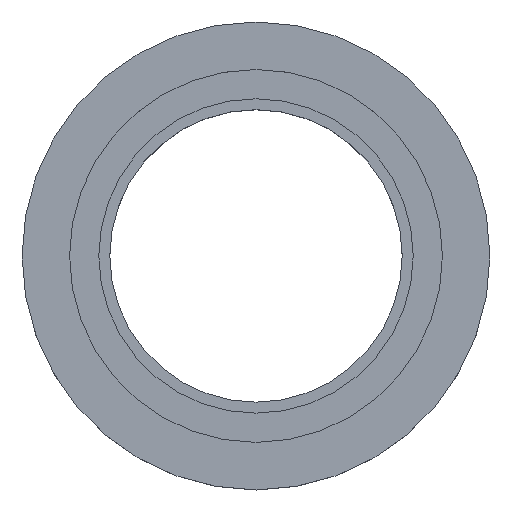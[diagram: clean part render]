
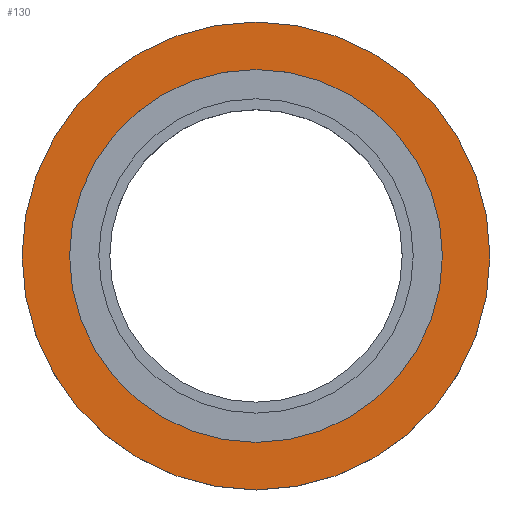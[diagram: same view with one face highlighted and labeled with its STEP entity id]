
A CAD part, top view. The second image highlights one B-rep face of the part: STEP entity #130.
In plain terms, the highlighted planar face has unit normal (0, 0, 1).
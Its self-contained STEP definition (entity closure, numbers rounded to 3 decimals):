
#28=FACE_BOUND('',#44,.T.);
#34=FACE_OUTER_BOUND('',#43,.T.);
#43=EDGE_LOOP('',(#104,#105));
#44=EDGE_LOOP('',(#106));
#54=CIRCLE('',#160,12.75);
#55=CIRCLE('',#162,16.);
#56=CIRCLE('',#163,16.);
#66=VERTEX_POINT('',#230);
#67=VERTEX_POINT('',#234);
#68=VERTEX_POINT('',#235);
#78=EDGE_CURVE('',#66,#66,#54,.T.);
#80=EDGE_CURVE('',#67,#68,#55,.T.);
#81=EDGE_CURVE('',#68,#67,#56,.T.);
#104=ORIENTED_EDGE('',*,*,#80,.T.);
#105=ORIENTED_EDGE('',*,*,#81,.T.);
#106=ORIENTED_EDGE('',*,*,#78,.T.);
#124=PLANE('',#166);
#130=ADVANCED_FACE('',(#34,#28),#124,.T.);
#160=AXIS2_PLACEMENT_3D('',#231,#187,#188);
#162=AXIS2_PLACEMENT_3D('',#236,#192,#193);
#163=AXIS2_PLACEMENT_3D('',#237,#194,#195);
#166=AXIS2_PLACEMENT_3D('',#243,#201,#202);
#187=DIRECTION('center_axis',(0.,0.,-1.));
#188=DIRECTION('ref_axis',(-1.,0.,0.));
#192=DIRECTION('center_axis',(0.,0.,1.));
#193=DIRECTION('ref_axis',(1.,0.,0.));
#194=DIRECTION('center_axis',(0.,0.,1.));
#195=DIRECTION('ref_axis',(1.,0.,0.));
#201=DIRECTION('center_axis',(0.,0.,1.));
#202=DIRECTION('ref_axis',(1.,0.,0.));
#230=CARTESIAN_POINT('',(12.75,0.,2.));
#231=CARTESIAN_POINT('Origin',(0.,0.,2.));
#234=CARTESIAN_POINT('',(16.,0.,2.));
#235=CARTESIAN_POINT('',(-16.,0.,2.));
#236=CARTESIAN_POINT('Origin',(0.,0.,2.));
#237=CARTESIAN_POINT('Origin',(0.,0.,2.));
#243=CARTESIAN_POINT('Origin',(0.,0.,2.));
